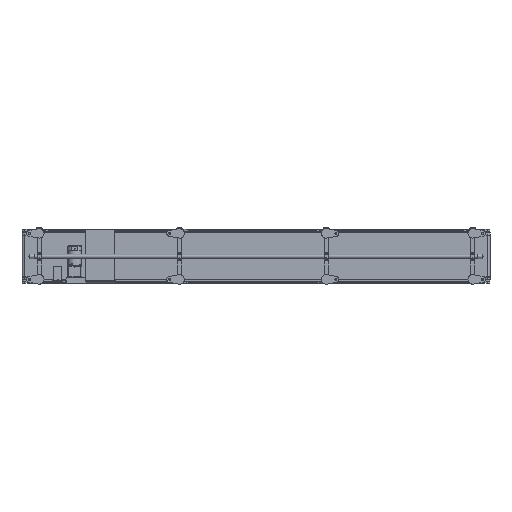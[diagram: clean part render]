
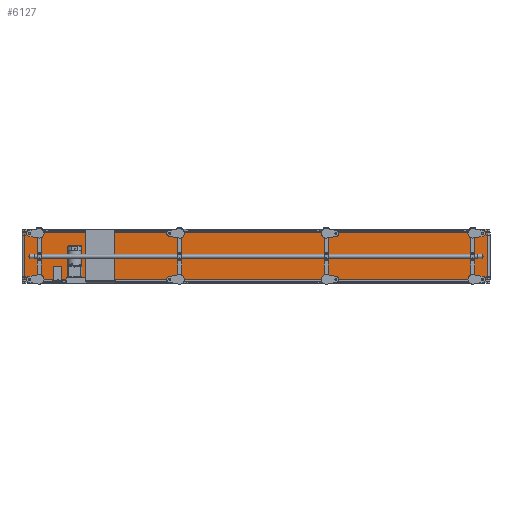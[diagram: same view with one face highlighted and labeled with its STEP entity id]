
A CAD part, front view. The second image highlights one B-rep face of the part: STEP entity #6127.
In plain terms, the highlighted planar face has unit normal (0, -1, 0).
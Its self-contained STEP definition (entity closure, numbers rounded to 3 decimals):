
#6127=ADVANCED_FACE('',(#38873),#38872,.F.);
#38872=PLANE('',#58997);
#38873=FACE_OUTER_BOUND('',#58998,.T.);
#58994=CARTESIAN_POINT('',(4.,-26.8,-160.));
#58995=DIRECTION('',(0.,1.,0.));
#58996=DIRECTION('',(0.,0.,1.));
#58997=AXIS2_PLACEMENT_3D('',#58994,#58995,#58996);
#58998=EDGE_LOOP('',(#76214,#76215,#76216,#76217));
#76214=ORIENTED_EDGE('',*,*,#85304,.T.);
#76215=ORIENTED_EDGE('',*,*,#85298,.F.);
#76216=ORIENTED_EDGE('',*,*,#85299,.F.);
#76217=ORIENTED_EDGE('',*,*,#85294,.T.);
#85294=EDGE_CURVE('',#139972,#139965,#139973,.T.);
#85298=EDGE_CURVE('',#139992,#139985,#139999,.T.);
#85299=EDGE_CURVE('',#139972,#139992,#140005,.T.);
#85304=EDGE_CURVE('',#139965,#139985,#140039,.T.);
#139965=VERTEX_POINT('',#175005);
#139972=VERTEX_POINT('',#175010);
#139973=LINE('',#175011,#175012);
#139985=VERTEX_POINT('',#175018);
#139992=VERTEX_POINT('',#175023);
#139999=LINE('',#175028,#175029);
#140005=LINE('',#175031,#175032);
#140039=LINE('',#175052,#175053);
#175005=CARTESIAN_POINT('',(14.,-26.8,-150.));
#175010=CARTESIAN_POINT('',(14.,-26.8,150.));
#175011=CARTESIAN_POINT('',(14.,-26.8,150.));
#175012=VECTOR('',#175013,300.);
#175013=DIRECTION('',(0.,0.,-1.));
#175018=CARTESIAN_POINT('',(2986.,-26.8,-150.));
#175023=CARTESIAN_POINT('',(2986.,-26.8,150.));
#175028=CARTESIAN_POINT('',(2986.,-26.8,150.));
#175029=VECTOR('',#175030,300.);
#175030=DIRECTION('',(0.,0.,-1.));
#175031=CARTESIAN_POINT('',(14.,-26.8,150.));
#175032=VECTOR('',#175033,2972.);
#175033=DIRECTION('',(1.,0.,0.));
#175052=CARTESIAN_POINT('',(14.,-26.8,-150.));
#175053=VECTOR('',#175054,2972.);
#175054=DIRECTION('',(1.,0.,0.));
